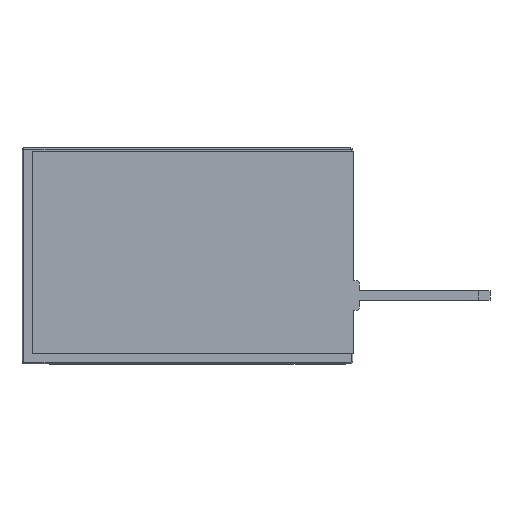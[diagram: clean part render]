
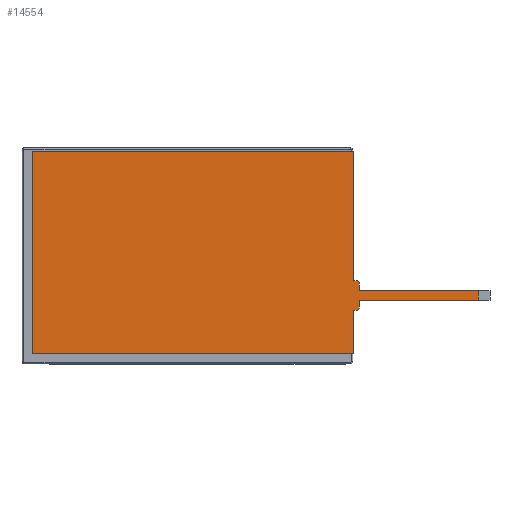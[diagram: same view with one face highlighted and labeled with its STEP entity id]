
A CAD part, top view. The second image highlights one B-rep face of the part: STEP entity #14554.
In plain terms, the highlighted planar face has unit normal (0, 0, 1) as drawn and (0, 1, 0) by its records, which use the part's own axes.
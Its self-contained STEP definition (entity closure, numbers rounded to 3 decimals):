
#1312 = AXIS2_PLACEMENT_3D ( 'NONE', #27534, #27535, #27536 ) ;
#2643 = EDGE_LOOP ( 'NONE', ( #12752, #11794, #12085, #12772, #12735, #12669, #12643, #11715, #11722, #12531, #11651, #12111, #12648, #12733, #12447, #12751 ) ) ;
#3914 = VECTOR ( 'NONE', #25002, 1000. ) ;
#3918 = LINE ( 'NONE', #25001, #3914 ) ;
#3926 = VECTOR ( 'NONE', #24994, 1000. ) ;
#3929 = LINE ( 'NONE', #24993, #3926 ) ;
#4092 = VECTOR ( 'NONE', #24634, 1000. ) ;
#4705 = VECTOR ( 'NONE', #25160, 1000. ) ;
#4716 = LINE ( 'NONE', #25159, #4705 ) ;
#4905 = LINE ( 'NONE', #24663, #4914 ) ;
#4914 = VECTOR ( 'NONE', #24664, 1000. ) ;
#4926 = CIRCLE ( 'NONE', #31244, 0.5 ) ;
#4928 = LINE ( 'NONE', #24633, #4092 ) ;
#9709 = CARTESIAN_POINT ( 'NONE',  ( -146.5, 1.4, -24.5 ) ) ;
#9712 = DIRECTION ( 'NONE',  ( 0., 0., -1. ) ) ;
#9737 = CARTESIAN_POINT ( 'NONE',  ( -79.5, 1.4, -14.5 ) ) ;
#9738 = DIRECTION ( 'NONE',  ( 1., 0., 0. ) ) ;
#10340 = CARTESIAN_POINT ( 'NONE',  ( -84.3, 1.4, -28.5 ) ) ;
#10341 = DIRECTION ( 'NONE',  ( 0., 1., 0. ) ) ;
#10342 = DIRECTION ( 'NONE',  ( 0., 0., -1. ) ) ;
#11651 = ORIENTED_EDGE ( 'NONE', *, *, #28967, .T. ) ;
#11715 = ORIENTED_EDGE ( 'NONE', *, *, #34647, .T. ) ;
#11722 = ORIENTED_EDGE ( 'NONE', *, *, #32719, .T. ) ;
#11794 = ORIENTED_EDGE ( 'NONE', *, *, #32689, .T. ) ;
#12085 = ORIENTED_EDGE ( 'NONE', *, *, #32652, .T. ) ;
#12111 = ORIENTED_EDGE ( 'NONE', *, *, #32665, .T. ) ;
#12447 = ORIENTED_EDGE ( 'NONE', *, *, #34587, .T. ) ;
#12477 = VERTEX_POINT ( 'NONE', #17957 ) ;
#12480 = VERTEX_POINT ( 'NONE', #17978 ) ;
#12510 = VERTEX_POINT ( 'NONE', #18018 ) ;
#12518 = VERTEX_POINT ( 'NONE', #18026 ) ;
#12520 = VERTEX_POINT ( 'NONE', #18029 ) ;
#12522 = VERTEX_POINT ( 'NONE', #18033 ) ;
#12524 = VERTEX_POINT ( 'NONE', #18037 ) ;
#12531 = ORIENTED_EDGE ( 'NONE', *, *, #34520, .T. ) ;
#12576 = VERTEX_POINT ( 'NONE', #18099 ) ;
#12582 = VERTEX_POINT ( 'NONE', #18111 ) ;
#12590 = VERTEX_POINT ( 'NONE', #18120 ) ;
#12610 = VERTEX_POINT ( 'NONE', #18146 ) ;
#12629 = VERTEX_POINT ( 'NONE', #18157 ) ;
#12642 = VERTEX_POINT ( 'NONE', #18170 ) ;
#12643 = ORIENTED_EDGE ( 'NONE', *, *, #28978, .T. ) ;
#12648 = ORIENTED_EDGE ( 'NONE', *, *, #33501, .T. ) ;
#12669 = ORIENTED_EDGE ( 'NONE', *, *, #32739, .T. ) ;
#12711 = VERTEX_POINT ( 'NONE', #18247 ) ;
#12713 = VERTEX_POINT ( 'NONE', #18256 ) ;
#12723 = VERTEX_POINT ( 'NONE', #18260 ) ;
#12733 = ORIENTED_EDGE ( 'NONE', *, *, #34643, .T. ) ;
#12735 = ORIENTED_EDGE ( 'NONE', *, *, #32682, .T. ) ;
#12751 = ORIENTED_EDGE ( 'NONE', *, *, #34532, .T. ) ;
#12752 = ORIENTED_EDGE ( 'NONE', *, *, #32731, .F. ) ;
#12772 = ORIENTED_EDGE ( 'NONE', *, *, #34706, .T. ) ;
#14554 = ADVANCED_FACE ( 'NONE', ( #18517 ), #27524, .T. ) ;
#15435 = CARTESIAN_POINT ( 'NONE',  ( -82.5, 1.4, -52. ) ) ;
#15437 = DIRECTION ( 'NONE',  ( 0., 0., 1. ) ) ;
#15451 = CARTESIAN_POINT ( 'NONE',  ( -82.5, 1.4, -52. ) ) ;
#15452 = DIRECTION ( 'NONE',  ( 0., 0., 1. ) ) ;
#15522 = CARTESIAN_POINT ( 'NONE',  ( -85.8, 1.4, -19. ) ) ;
#15523 = DIRECTION ( 'NONE',  ( 0., -1., 0. ) ) ;
#15524 = DIRECTION ( 'NONE',  ( 0., 0., 1. ) ) ;
#15564 = CARTESIAN_POINT ( 'NONE',  ( -84.3, 1.4, -29.5 ) ) ;
#15565 = DIRECTION ( 'NONE',  ( -1., 0., 0. ) ) ;
#15646 = CARTESIAN_POINT ( 'NONE',  ( -84.3, 1.4, -15.5 ) ) ;
#15647 = DIRECTION ( 'NONE',  ( 0., 1., 0. ) ) ;
#15648 = DIRECTION ( 'NONE',  ( 0., 0., -1. ) ) ;
#15654 = DIRECTION ( 'NONE',  ( 1., 0., 0. ) ) ;
#15657 = CARTESIAN_POINT ( 'NONE',  ( -85.8, 1.4, -19.5 ) ) ;
#15746 = DIRECTION ( 'NONE',  ( 0., 0., -1. ) ) ;
#15750 = CARTESIAN_POINT ( 'NONE',  ( 82.5, 1.4, -52. ) ) ;
#17957 = CARTESIAN_POINT ( 'NONE',  ( -146.5, 1.4, -24.5 ) ) ;
#17978 = CARTESIAN_POINT ( 'NONE',  ( 82.5, 1.4, 52. ) ) ;
#18018 = CARTESIAN_POINT ( 'NONE',  ( 82.5, 1.4, -52. ) ) ;
#18026 = CARTESIAN_POINT ( 'NONE',  ( -85.8, 1.4, -19.5 ) ) ;
#18029 = CARTESIAN_POINT ( 'NONE',  ( -84.3, 1.4, -29.5 ) ) ;
#18033 = CARTESIAN_POINT ( 'NONE',  ( -85.3, 1.4, -15.5 ) ) ;
#18037 = CARTESIAN_POINT ( 'NONE',  ( -85.3, 1.4, -19. ) ) ;
#18099 = CARTESIAN_POINT ( 'NONE',  ( -84.3, 1.4, -14.5 ) ) ;
#18111 = CARTESIAN_POINT ( 'NONE',  ( -82.5, 1.4, -52. ) ) ;
#18120 = CARTESIAN_POINT ( 'NONE',  ( -82.5, 1.4, -29.5 ) ) ;
#18146 = CARTESIAN_POINT ( 'NONE',  ( -85.3, 1.4, -28.5 ) ) ;
#18157 = CARTESIAN_POINT ( 'NONE',  ( -82.5, 1.4, 52. ) ) ;
#18170 = CARTESIAN_POINT ( 'NONE',  ( -146.5, 1.4, -19.5 ) ) ;
#18247 = CARTESIAN_POINT ( 'NONE',  ( -85.8, 1.4, -24.5 ) ) ;
#18256 = CARTESIAN_POINT ( 'NONE',  ( -82.5, 1.4, -14.5 ) ) ;
#18260 = CARTESIAN_POINT ( 'NONE',  ( -85.3, 1.4, -25. ) ) ;
#18517 = FACE_OUTER_BOUND ( 'NONE', #2643, .T. ) ;
#24633 = CARTESIAN_POINT ( 'NONE',  ( -82.5, 1.4, -52. ) ) ;
#24634 = DIRECTION ( 'NONE',  ( -1., 0., 0. ) ) ;
#24663 = CARTESIAN_POINT ( 'NONE',  ( -152.5, 1.4, -24.5 ) ) ;
#24664 = DIRECTION ( 'NONE',  ( -1., 0., 0. ) ) ;
#24796 = CARTESIAN_POINT ( 'NONE',  ( -85.8, 1.4, -25. ) ) ;
#24797 = DIRECTION ( 'NONE',  ( 0., -1., 0. ) ) ;
#24798 = DIRECTION ( 'NONE',  ( 0., 0., 1. ) ) ;
#24993 = CARTESIAN_POINT ( 'NONE',  ( -85.3, 1.4, -25. ) ) ;
#24994 = DIRECTION ( 'NONE',  ( 0., 0., 1. ) ) ;
#25001 = CARTESIAN_POINT ( 'NONE',  ( -82.5, 1.4, 52. ) ) ;
#25002 = DIRECTION ( 'NONE',  ( 1., 0., 0. ) ) ;
#25159 = CARTESIAN_POINT ( 'NONE',  ( -85.3, 1.4, -15.5 ) ) ;
#25160 = DIRECTION ( 'NONE',  ( 0., 0., 1. ) ) ;
#27524 = PLANE ( 'NONE',  #1312 ) ;
#27534 = CARTESIAN_POINT ( 'NONE',  ( 0., 1.4, 0. ) ) ;
#27535 = DIRECTION ( 'NONE',  ( 0., 1., 0. ) ) ;
#27536 = DIRECTION ( 'NONE',  ( 0., 0., 1. ) ) ;
#28967 = EDGE_CURVE ( 'NONE', #12582, #12590, #30592, .T. ) ;
#28978 = EDGE_CURVE ( 'NONE', #12713, #12629, #31063, .T. ) ;
#30125 = LINE ( 'NONE', #15564, #30922 ) ;
#30203 = VECTOR ( 'NONE', #15654, 1000. ) ;
#30455 = VECTOR ( 'NONE', #9738, 1000. ) ;
#30486 = VECTOR ( 'NONE', #15437, 1000. ) ;
#30561 = LINE ( 'NONE', #9737, #30455 ) ;
#30592 = LINE ( 'NONE', #15435, #30486 ) ;
#30626 = VECTOR ( 'NONE', #15452, 1000. ) ;
#30651 = LINE ( 'NONE', #9709, #30829 ) ;
#30829 = VECTOR ( 'NONE', #9712, 1000. ) ;
#30839 = CIRCLE ( 'NONE', #31314, 1. ) ;
#30909 = LINE ( 'NONE', #15657, #30203 ) ;
#30912 = LINE ( 'NONE', #15750, #30993 ) ;
#30922 = VECTOR ( 'NONE', #15565, 1000. ) ;
#30993 = VECTOR ( 'NONE', #15746, 1000. ) ;
#31043 = CIRCLE ( 'NONE', #31324, 0.5 ) ;
#31063 = LINE ( 'NONE', #15451, #30626 ) ;
#31176 = CIRCLE ( 'NONE', #31288, 1. ) ;
#31244 = AXIS2_PLACEMENT_3D ( 'NONE', #24796, #24797, #24798 ) ;
#31288 = AXIS2_PLACEMENT_3D ( 'NONE', #10340, #10341, #10342 ) ;
#31314 = AXIS2_PLACEMENT_3D ( 'NONE', #15646, #15647, #15648 ) ;
#31324 = AXIS2_PLACEMENT_3D ( 'NONE', #15522, #15523, #15524 ) ;
#32652 = EDGE_CURVE ( 'NONE', #12518, #12524, #31043, .T. ) ;
#32665 = EDGE_CURVE ( 'NONE', #12590, #12520, #30125, .T. ) ;
#32682 = EDGE_CURVE ( 'NONE', #12522, #12576, #30839, .T. ) ;
#32689 = EDGE_CURVE ( 'NONE', #12642, #12518, #30909, .T. ) ;
#32719 = EDGE_CURVE ( 'NONE', #12480, #12510, #30912, .T. ) ;
#32731 = EDGE_CURVE ( 'NONE', #12642, #12477, #30651, .T. ) ;
#32739 = EDGE_CURVE ( 'NONE', #12576, #12713, #30561, .T. ) ;
#33501 = EDGE_CURVE ( 'NONE', #12520, #12610, #31176, .T. ) ;
#34520 = EDGE_CURVE ( 'NONE', #12510, #12582, #4928, .T. ) ;
#34532 = EDGE_CURVE ( 'NONE', #12711, #12477, #4905, .T. ) ;
#34587 = EDGE_CURVE ( 'NONE', #12723, #12711, #4926, .T. ) ;
#34643 = EDGE_CURVE ( 'NONE', #12610, #12723, #3929, .T. ) ;
#34647 = EDGE_CURVE ( 'NONE', #12629, #12480, #3918, .T. ) ;
#34706 = EDGE_CURVE ( 'NONE', #12524, #12522, #4716, .T. ) ;
